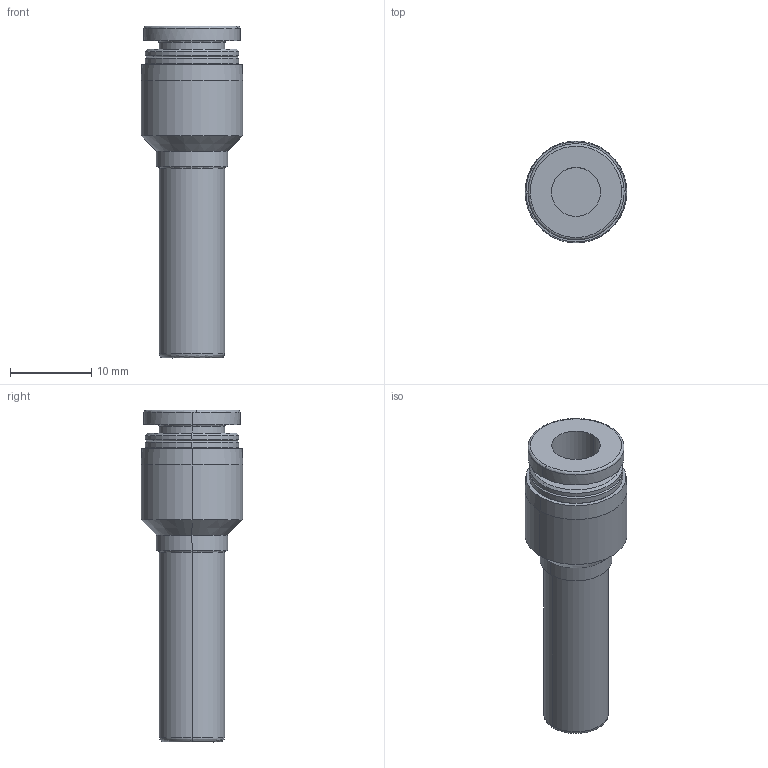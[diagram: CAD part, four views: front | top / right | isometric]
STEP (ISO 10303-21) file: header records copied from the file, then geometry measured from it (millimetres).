
FILE_DESCRIPTION (( 'STEP AP214' ), '1' );
FILE_NAME ('APGJ8-6.STEP', '2019-12-05T08:42:16', ( '微软用户' ), ( '微软中国' ), 'SwSTEP 2.0', 'SolidWorks 2016', '' );
FILE_SCHEMA (( 'AUTOMOTIVE_DESIGN' ));
Length unit declared in the file: millimetre
Products named in the file (1): APGJ8-6
Bounding box: 12.5 x 12.5 x 40.75 mm (x, y, z)
Volume: 2499.2 mm3; surface area: 1841.5 mm2
Topology: 1 solids, 1 shells, 43 faces, 88 edges, 52 vertices
Faces by surface type: cylinder 16, cone 12, bspline 8, plane 7
Entity records: 1626 total; most frequent: CARTESIAN_POINT 701, DIRECTION 200, ORIENTED_EDGE 176, EDGE_CURVE 88, AXIS2_PLACEMENT_3D 86, VERTEX_POINT 52, CIRCLE 50, EDGE_LOOP 48
